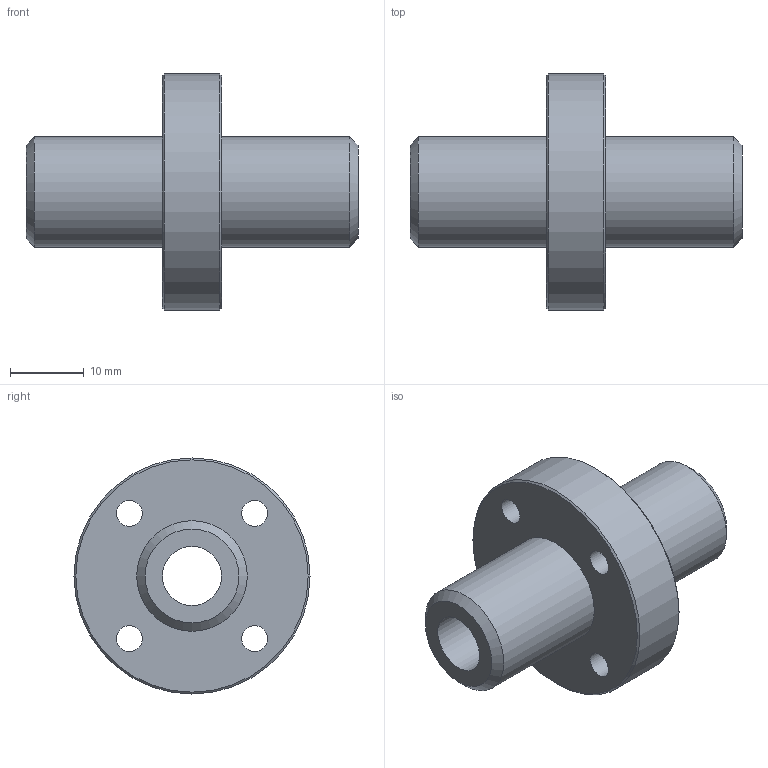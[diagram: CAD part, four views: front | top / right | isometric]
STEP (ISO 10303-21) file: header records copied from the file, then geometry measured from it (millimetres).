
FILE_DESCRIPTION(('STEP AP203'),'1');
FILE_NAME('//192.168.1.1/share/s-4 技術開発/s-4-4_CAD/s-4-4-3_見直し済み/PBC LINEAR修正済み/CFPJ/CFPJ_TOP/CFPJR/CFPJR08.step','2022-03-24T04:19:58',(' '),(' '),'Spatial InterOp 3D',' ',' ');
FILE_SCHEMA(('CONFIG_CONTROL_DESIGN'));
Length unit declared in the file: millimetre
Products named in the file (1): 1
Bounding box: 45 x 32 x 32 mm (x, y, z)
Volume: 10105.7 mm3; surface area: 5462 mm2
Topology: 1 solids, 1 shells, 24 faces, 49 edges, 33 vertices
Faces by surface type: cylinder 12, plane 8, cone 4
Full cylindrical faces by diameter (mm): 3.5 x4, 6 x4, 8 x1, 15 x2, 32 x1
Entity records: 588 total; most frequent: DIRECTION 106, CARTESIAN_POINT 81, EDGE_LOOP 56, ORIENTED_EDGE 56, AXIS2_PLACEMENT_3D 53, FACE_OUTER_BOUND 36, EDGE_CURVE 28, VERTEX_POINT 28
